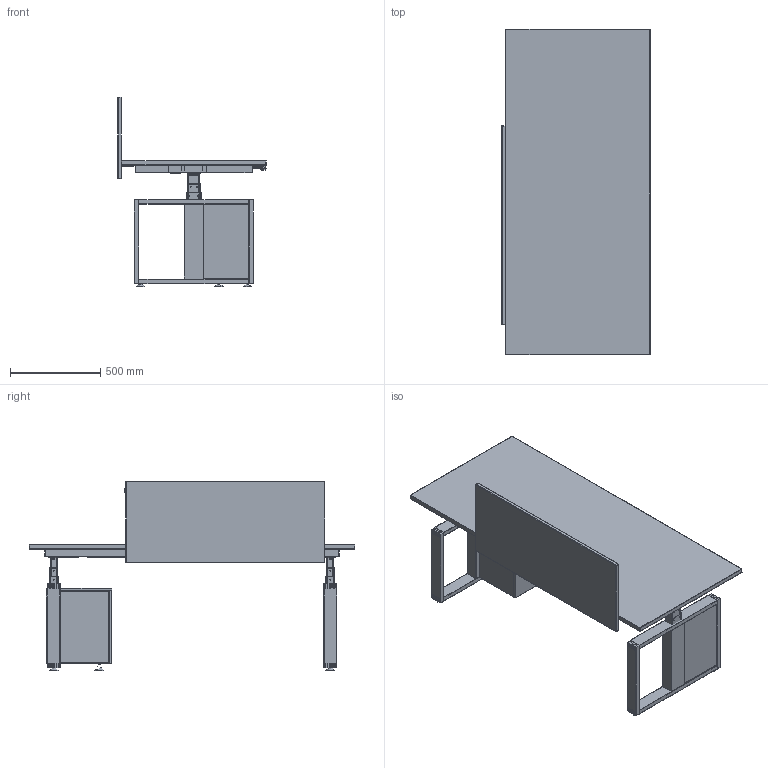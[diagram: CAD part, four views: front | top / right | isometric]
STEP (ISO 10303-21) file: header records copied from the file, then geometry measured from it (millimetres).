
FILE_DESCRIPTION ((), '1');
FILE_NAME ('C:\D\DESING\TABLE DESK PROJECT\MODESK WEB\3D MODELY KE STAZENI\EXECUTIVE\MODESK_EXECUTIVE_1800 + SKRINKA.stp', '2019-08-02T13:34:57', ('Unknown'), ('Unknown'), 'HarmonyWare STEP v1.4.3', 'HarmonyWare Translators', '');
FILE_SCHEMA (('CONFIG_CONTROL_DESIGN'));
Length unit declared in the file: millimetre
Products named in the file (122): MODESK_EXECUTIVE_1800 + SKRINKA
Bounding box: 820 x 1800 x 1047.05 mm (x, y, z)
Volume: 50470726 mm3; surface area: 11194967.6 mm2
Topology: 76 solids, 122 shells, 6868 faces, 17955 edges, 10973 vertices
Faces by surface type: bspline 6868
Entity records: 312296 total; most frequent: CARTESIAN_POINT 202968, ORIENTED_EDGE 34224, EDGE_CURVE 17466, VERTEX_POINT 10984, B_SPLINE_CURVE_WITH_KNOTS 9596, EDGE_LOOP 7339, FACE_OUTER_BOUND 6868, ADVANCED_FACE 6868
